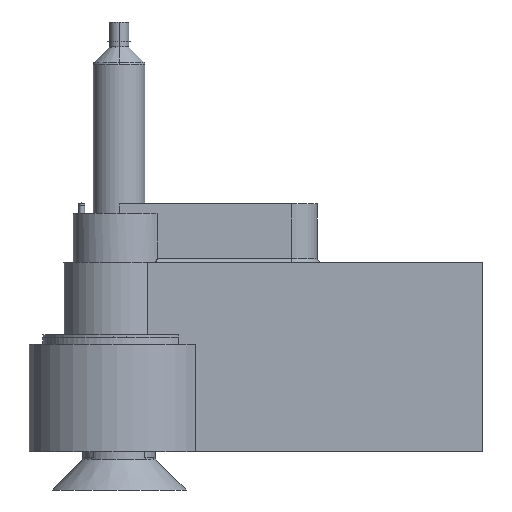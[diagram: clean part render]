
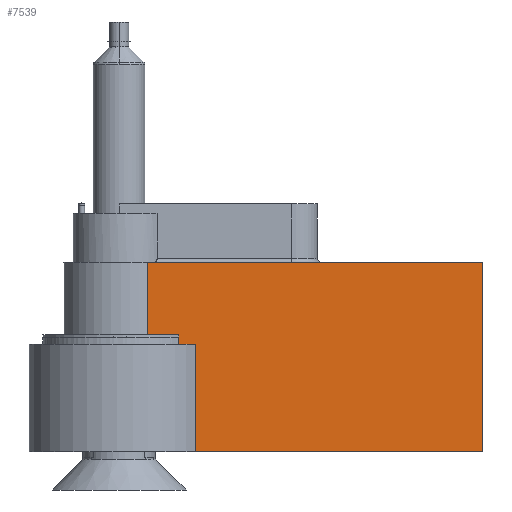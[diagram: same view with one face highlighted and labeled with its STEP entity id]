
A CAD part, front view. The second image highlights one B-rep face of the part: STEP entity #7539.
In plain terms, the highlighted planar face has unit normal (0, -1, 0).
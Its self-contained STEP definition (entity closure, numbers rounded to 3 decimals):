
#158 = CARTESIAN_POINT ( 'NONE',  ( 39.799, -25., -51. ) ) ;
#419 = EDGE_CURVE ( 'NONE', #38915, #12785, #20929, .T. ) ;
#1486 = ORIENTED_EDGE ( 'NONE', *, *, #2769, .T. ) ;
#1995 = CARTESIAN_POINT ( 'NONE',  ( 190., -25., -8. ) ) ;
#2449 = DIRECTION ( 'NONE',  ( 0., 0., -1. ) ) ;
#2534 = EDGE_CURVE ( 'NONE', #26152, #19215, #2930, .T. ) ;
#2769 = EDGE_CURVE ( 'NONE', #38915, #19215, #36430, .T. ) ;
#2930 = LINE ( 'NONE', #9194, #25647 ) ;
#3281 = VERTEX_POINT ( 'NONE', #28330 ) ;
#3423 = CARTESIAN_POINT ( 'NONE',  ( 190., -25., -8. ) ) ;
#3834 = EDGE_LOOP ( 'NONE', ( #8640, #28762, #22357, #1486, #22231, #8596, #40357, #4153 ) ) ;
#4153 = ORIENTED_EDGE ( 'NONE', *, *, #9785, .F. ) ;
#4831 = DIRECTION ( 'NONE',  ( 0., 0., 1. ) ) ;
#5857 = CARTESIAN_POINT ( 'NONE',  ( 0., -25., -46. ) ) ;
#6149 = VECTOR ( 'NONE', #28527, 1000. ) ;
#6310 = CARTESIAN_POINT ( 'NONE',  ( 190., -25., -8. ) ) ;
#7539 = ADVANCED_FACE ( 'NONE', ( #37260 ), #27037, .F. ) ;
#8194 = LINE ( 'NONE', #5857, #20110 ) ;
#8596 = ORIENTED_EDGE ( 'NONE', *, *, #25332, .F. ) ;
#8640 = ORIENTED_EDGE ( 'NONE', *, *, #26725, .F. ) ;
#9117 = CARTESIAN_POINT ( 'NONE',  ( 14.697, -25., -8. ) ) ;
#9194 = CARTESIAN_POINT ( 'NONE',  ( 14.697, -25., 85.716 ) ) ;
#9785 = EDGE_CURVE ( 'NONE', #42802, #36063, #25730, .T. ) ;
#10111 = VECTOR ( 'NONE', #2449, 1000. ) ;
#12785 = VERTEX_POINT ( 'NONE', #39721 ) ;
#13767 = CARTESIAN_POINT ( 'NONE',  ( 190., -25., -107. ) ) ;
#13987 = CARTESIAN_POINT ( 'NONE',  ( 31.225, -25., -51. ) ) ;
#14176 = EDGE_CURVE ( 'NONE', #12785, #3281, #36348, .T. ) ;
#14796 = CARTESIAN_POINT ( 'NONE',  ( 0., -25., -51. ) ) ;
#15528 = CARTESIAN_POINT ( 'NONE',  ( 39.799, -25., 85.716 ) ) ;
#15835 = DIRECTION ( 'NONE',  ( 0., 0., 1. ) ) ;
#17359 = VECTOR ( 'NONE', #21336, 1000. ) ;
#18132 = DIRECTION ( 'NONE',  ( -1., 0., 0. ) ) ;
#18516 = CARTESIAN_POINT ( 'NONE',  ( 190., -25., -8. ) ) ;
#19215 = VERTEX_POINT ( 'NONE', #9117 ) ;
#19673 = CARTESIAN_POINT ( 'NONE',  ( 14.697, -25., -46. ) ) ;
#19925 = DIRECTION ( 'NONE',  ( 0., 0., 1. ) ) ;
#20110 = VECTOR ( 'NONE', #40432, 1000. ) ;
#20929 = LINE ( 'NONE', #3423, #10111 ) ;
#21336 = DIRECTION ( 'NONE',  ( -1., 0., 0. ) ) ;
#22193 = DIRECTION ( 'NONE',  ( 0., 0., 1. ) ) ;
#22231 = ORIENTED_EDGE ( 'NONE', *, *, #2534, .F. ) ;
#22357 = ORIENTED_EDGE ( 'NONE', *, *, #419, .F. ) ;
#25332 = EDGE_CURVE ( 'NONE', #36492, #26152, #8194, .T. ) ;
#25384 = CARTESIAN_POINT ( 'NONE',  ( 31.225, -25., -46. ) ) ;
#25647 = VECTOR ( 'NONE', #15835, 1000. ) ;
#25730 = LINE ( 'NONE', #14796, #26318 ) ;
#26152 = VERTEX_POINT ( 'NONE', #19673 ) ;
#26318 = VECTOR ( 'NONE', #18132, 1000. ) ;
#26725 = EDGE_CURVE ( 'NONE', #3281, #42802, #42714, .T. ) ;
#27037 = PLANE ( 'NONE',  #36644 ) ;
#28330 = CARTESIAN_POINT ( 'NONE',  ( 39.799, -25., -107. ) ) ;
#28527 = DIRECTION ( 'NONE',  ( -1., 0., 0. ) ) ;
#28762 = ORIENTED_EDGE ( 'NONE', *, *, #14176, .F. ) ;
#29045 = CARTESIAN_POINT ( 'NONE',  ( 31.225, -25., 85.716 ) ) ;
#32210 = VECTOR ( 'NONE', #4831, 1000. ) ;
#33306 = LINE ( 'NONE', #29045, #32210 ) ;
#36063 = VERTEX_POINT ( 'NONE', #13987 ) ;
#36137 = EDGE_CURVE ( 'NONE', #36063, #36492, #33306, .T. ) ;
#36348 = LINE ( 'NONE', #13767, #17359 ) ;
#36430 = LINE ( 'NONE', #18516, #6149 ) ;
#36492 = VERTEX_POINT ( 'NONE', #25384 ) ;
#36644 = AXIS2_PLACEMENT_3D ( 'NONE', #6310, #41025, #19925 ) ;
#37260 = FACE_OUTER_BOUND ( 'NONE', #3834, .T. ) ;
#38915 = VERTEX_POINT ( 'NONE', #1995 ) ;
#39721 = CARTESIAN_POINT ( 'NONE',  ( 190., -25., -107. ) ) ;
#40357 = ORIENTED_EDGE ( 'NONE', *, *, #36137, .F. ) ;
#40432 = DIRECTION ( 'NONE',  ( -1., 0., 0. ) ) ;
#41025 = DIRECTION ( 'NONE',  ( 0., 1., 0. ) ) ;
#42714 = LINE ( 'NONE', #15528, #44381 ) ;
#42802 = VERTEX_POINT ( 'NONE', #158 ) ;
#44381 = VECTOR ( 'NONE', #22193, 1000. ) ;
